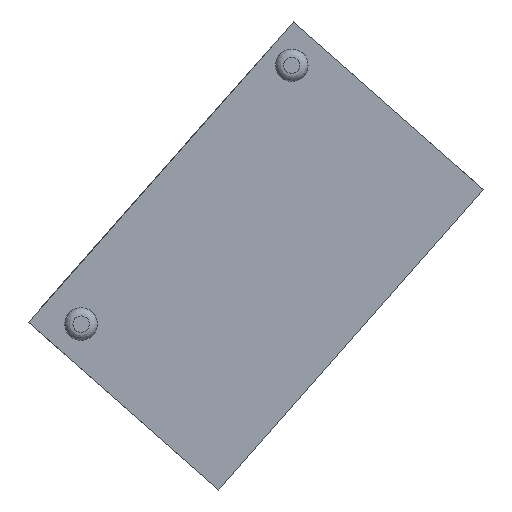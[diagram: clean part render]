
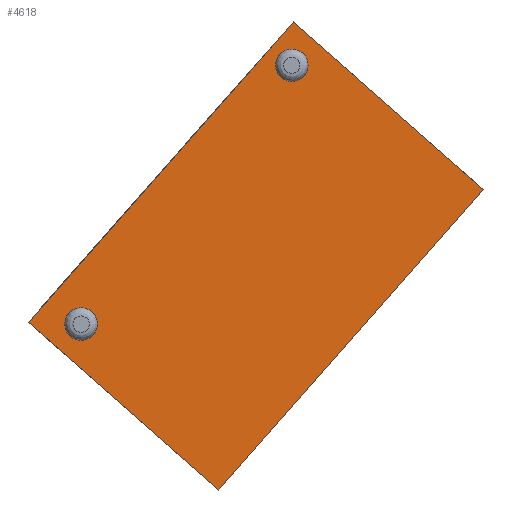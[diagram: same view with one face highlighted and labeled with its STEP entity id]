
A CAD part, left-side view. The second image highlights one B-rep face of the part: STEP entity #4618.
In plain terms, the highlighted planar face has unit normal (-1, 0, 0).
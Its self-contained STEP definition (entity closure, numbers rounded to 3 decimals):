
#382=FACE_BOUND('',#1010,.T.);
#383=FACE_BOUND('',#1011,.T.);
#460=PLANE('',#5238);
#718=FACE_OUTER_BOUND('',#1009,.T.);
#1009=EDGE_LOOP('',(#3983,#3984,#3985,#3986));
#1010=EDGE_LOOP('',(#3987));
#1011=EDGE_LOOP('',(#3988));
#1318=LINE('',#10601,#1580);
#1319=LINE('',#10603,#1581);
#1320=LINE('',#10605,#1582);
#1321=LINE('',#10606,#1583);
#1580=VECTOR('',#6417,10.);
#1581=VECTOR('',#6418,10.);
#1582=VECTOR('',#6419,10.);
#1583=VECTOR('',#6420,10.);
#1723=CIRCLE('',#5189,5.137);
#1726=CIRCLE('',#5194,5.137);
#2155=VERTEX_POINT('',#10356);
#2158=VERTEX_POINT('',#10366);
#2214=VERTEX_POINT('',#10599);
#2215=VERTEX_POINT('',#10600);
#2216=VERTEX_POINT('',#10602);
#2217=VERTEX_POINT('',#10604);
#2749=EDGE_CURVE('',#2155,#2155,#1723,.T.);
#2754=EDGE_CURVE('',#2158,#2158,#1726,.T.);
#2827=EDGE_CURVE('',#2214,#2215,#1318,.T.);
#2828=EDGE_CURVE('',#2215,#2216,#1319,.T.);
#2829=EDGE_CURVE('',#2216,#2217,#1320,.T.);
#2830=EDGE_CURVE('',#2217,#2214,#1321,.T.);
#3983=ORIENTED_EDGE('',*,*,#2827,.T.);
#3984=ORIENTED_EDGE('',*,*,#2828,.T.);
#3985=ORIENTED_EDGE('',*,*,#2829,.T.);
#3986=ORIENTED_EDGE('',*,*,#2830,.T.);
#3987=ORIENTED_EDGE('',*,*,#2749,.T.);
#3988=ORIENTED_EDGE('',*,*,#2754,.T.);
#4618=ADVANCED_FACE('',(#718,#382,#383),#460,.T.);
#5189=AXIS2_PLACEMENT_3D('',#10357,#6279,#6280);
#5194=AXIS2_PLACEMENT_3D('',#10367,#6291,#6292);
#5238=AXIS2_PLACEMENT_3D('',#10598,#6415,#6416);
#6279=DIRECTION('center_axis',(1.,0.,0.));
#6280=DIRECTION('ref_axis',(0.,-1.,0.));
#6291=DIRECTION('center_axis',(1.,0.,0.));
#6292=DIRECTION('ref_axis',(0.,-1.,0.));
#6415=DIRECTION('center_axis',(-1.,0.,0.));
#6416=DIRECTION('ref_axis',(0.,0.,1.));
#6417=DIRECTION('',(0.,-0.75,-0.661));
#6418=DIRECTION('',(0.,-0.661,0.75));
#6419=DIRECTION('',(0.,0.75,0.661));
#6420=DIRECTION('',(0.,0.661,-0.75));
#10356=CARTESIAN_POINT('',(-40.225,134.263,-22.151));
#10357=CARTESIAN_POINT('Origin',(-40.225,129.126,-22.151));
#10366=CARTESIAN_POINT('',(-40.225,4.678,136.963));
#10367=CARTESIAN_POINT('Origin',(-40.225,-0.459,136.963));
#10598=CARTESIAN_POINT('Origin',(-40.225,21.555,19.699));
#10599=CARTESIAN_POINT('',(-40.225,161.436,-20.999));
#10600=CARTESIAN_POINT('',(-40.225,44.371,-124.185));
#10601=CARTESIAN_POINT('',(-40.225,161.436,-20.999));
#10602=CARTESIAN_POINT('',(-40.225,-118.326,60.397));
#10603=CARTESIAN_POINT('',(-40.225,44.371,-124.185));
#10604=CARTESIAN_POINT('',(-40.225,-1.261,163.583));
#10605=CARTESIAN_POINT('',(-40.225,-118.326,60.397));
#10606=CARTESIAN_POINT('',(-40.225,-1.261,163.583));
